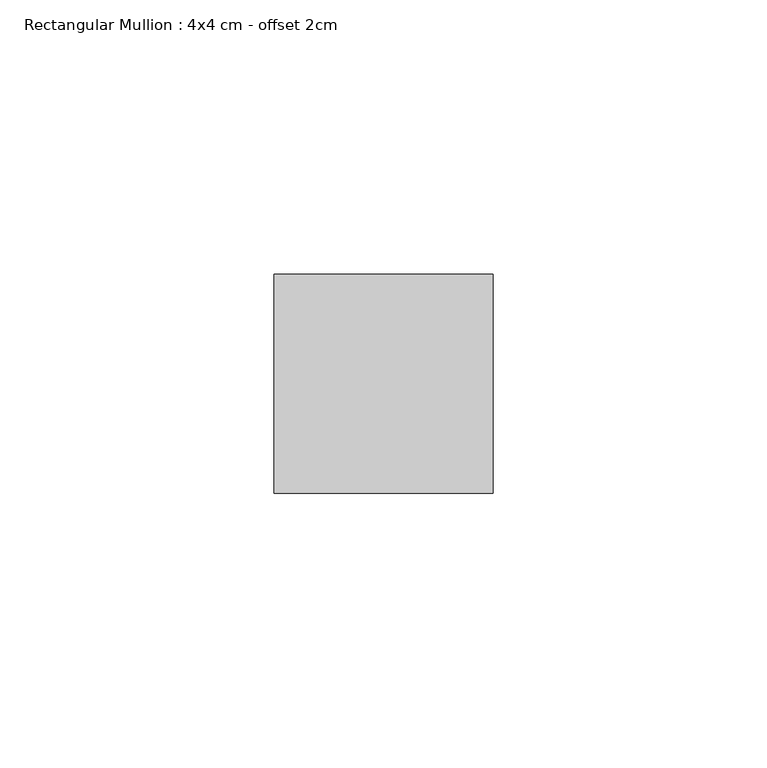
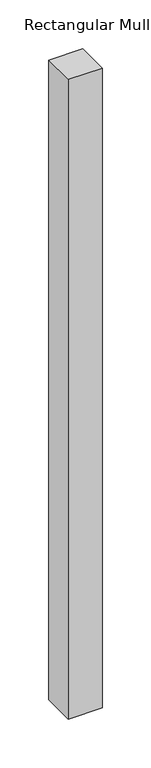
"""IFC4 building model written with IfcOpenShell, lengths in millimetres: member geometry, Rectangular Mullion : 4x4 cm - offset 2cm."""

from ifc_helpers import new_model, si_unit, frame, origin, place, context, project, spatial, polyline, outline, extrude, source, transform, mapped, element, save


def rectangular_mullion_4x4_cm_offset_2cm_a15747af(model_context):
    return source(origin(), model_context, "Body", "SweptSolid", [
        extrude(outline(polyline([(0.0, 40.0), (0.0, 0.0), (-40.0, 0.0), (-40.0, 40.0), (0.0, 40.0)])), frame((0.0, 0.0, -799.9999997), z_axis=(0.0, 0.0, 1.0), x_axis=(1.0, 0.0, 0.0)), (0.0, 0.0, 1.0), 799.9999997),
    ])


if __name__ == "__main__":
    model = new_model("IFC4")
    model_context = context("Model", 3, world=origin())
    ifc_project = project(units=[si_unit("LENGTHUNIT", "METRE", prefix="MILLI")], contexts=[model_context])
    site = spatial("IfcSite", under=ifc_project)
    building = spatial("IfcBuilding", under=site)
    placement = place(None, origin())
    rectangular_mullion_4x4_cm_offset_2cm_shape = rectangular_mullion_4x4_cm_offset_2cm_a15747af(model_context)
    element("IfcMember", 1, ObjectType="Rectangular Mullion : 4x4 cm - offset 2cm", at=placement, inside=building, context=model_context, shape_type="MappedRepresentation", body=[
        mapped(rectangular_mullion_4x4_cm_offset_2cm_shape, transform((0.0, 0.0, 0.0), x_axis=(1.0, 0.0, 0.0), y_axis=(0.0, 1.0, 0.0), z_axis=(0.0, 0.0, 1.0))),
    ])
    save(model, "model.ifc")
